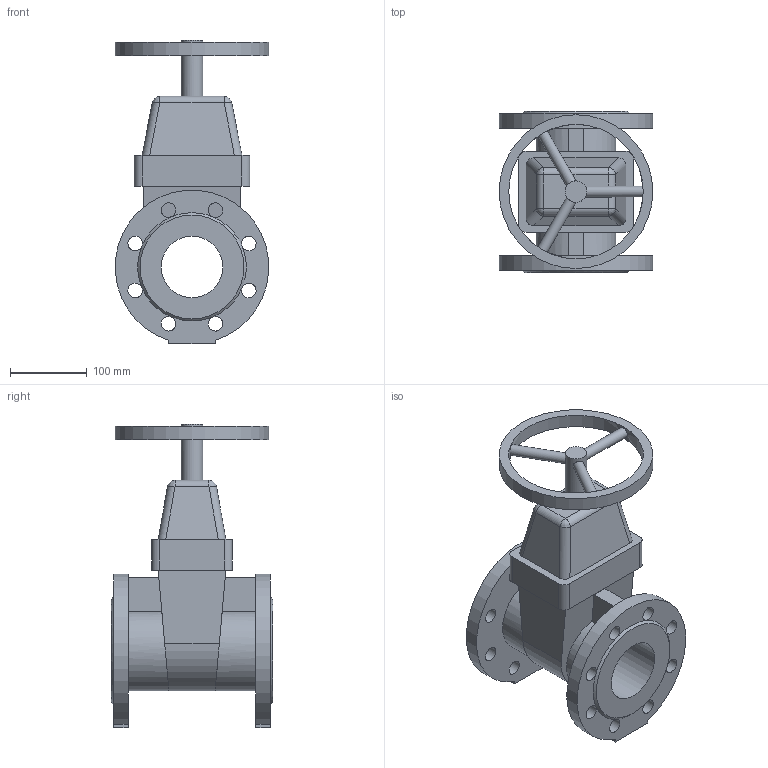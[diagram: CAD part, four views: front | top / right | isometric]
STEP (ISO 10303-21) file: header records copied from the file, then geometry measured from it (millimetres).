
FILE_DESCRIPTION(('STEP AP203'), '1');
FILE_NAME('Çàäâèæêà 47GV DN80 PN10_PN16_L210 ñ ìàõîâèêîì', '', ('UNSPECIFIED'), ('UNSPECIFIED'), 'ASCON STEP Converter 1.6', 'ASCON Math Kernel', '');
FILE_SCHEMA(('CONFIG_CONTROL_DESIGN'));
Length unit declared in the file: millimetre
Bounding box: 200 x 210 x 395 mm (x, y, z)
Volume: 3881313.7 mm3; surface area: 381891.4 mm2
Topology: 1 solids, 1 shells, 101 faces, 289 edges, 180 vertices
Faces by surface type: cylinder 48, plane 47, bspline 4, cone 2
Full cylindrical faces by diameter (mm): 14 x3, 19 x16, 28 x1, 80 x1, 175 x1, 200 x1
Entity records: 4836 total; most frequent: CARTESIAN_POINT 1481, DIRECTION 516, ORIENTED_EDGE 478, EDGE_CURVE 239, AXIS2_PLACEMENT_3D 198, EDGE_LOOP 178, VERTEX_POINT 169, FACE_BOUND 139
